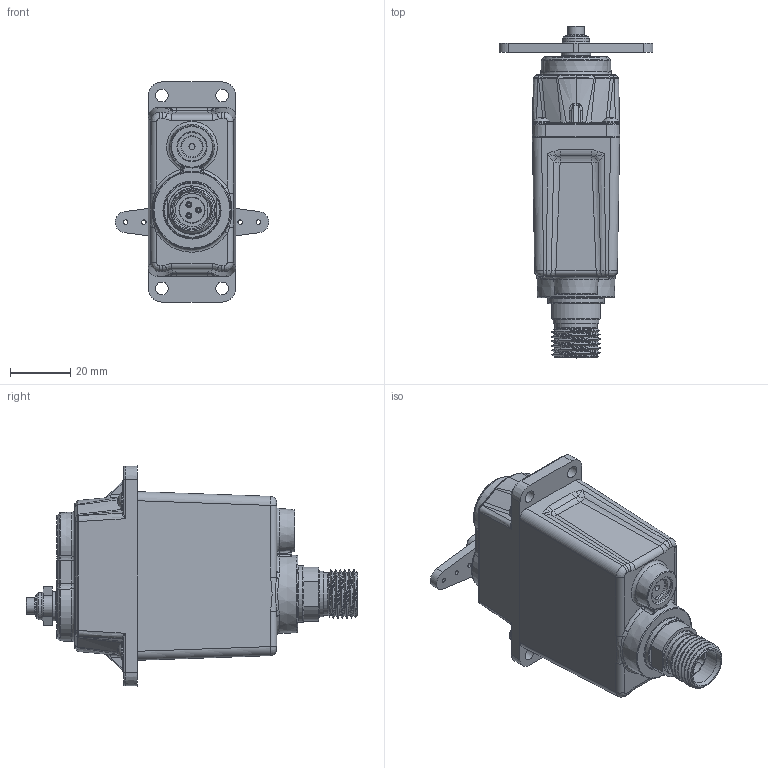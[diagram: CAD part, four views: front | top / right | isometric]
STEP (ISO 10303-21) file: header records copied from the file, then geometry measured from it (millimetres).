
FILE_DESCRIPTION (( 'STEP AP203' ), '1' );
FILE_NAME ('SER-1X07.STEP', '2020-08-05T01:51:52', ( '' ), ( '' ), 'SwSTEP 2.0', 'SolidWorks 2020', '' );
FILE_SCHEMA (( 'CONFIG_CONTROL_DESIGN' ));
Length unit declared in the file: millimetre
Products named in the file (1): SER-1X07
Bounding box: 50.98 x 110.15 x 73 mm (x, y, z)
Volume: 112998.6 mm3; surface area: 22159.8 mm2
Topology: 3 solids, 15 shells, 883 faces, 2263 edges, 1399 vertices
Faces by surface type: cylinder 257, bspline 249, plane 217, cone 96, torus 52, sphere 12
Full cylindrical faces by diameter (mm): 1.5 x6, 1.524 x3, 1.956 x3, 2 x1, 2.286 x3, 2.3 x3, 2.578 x28, 3 x1, 3.2 x1, 3.3 x4, 4.2 x4, 5 x1, 5.1 x1, 5.5 x1, 5.563 x4, 7 x1, 8.3 x1, 9 x1, 9.7 x1, 10.7 x1, 11.608 x1, 12.1 x1, 14 x1, 15.1 x1, 15.2 x1
Entity records: 44132 total; most frequent: CARTESIAN_POINT 26490, ORIENTED_EDGE 4044, DIRECTION 2927, EDGE_CURVE 2022, VERTEX_POINT 1296, AXIS2_PLACEMENT_3D 1190, EDGE_LOOP 1026, FACE_OUTER_BOUND 924
